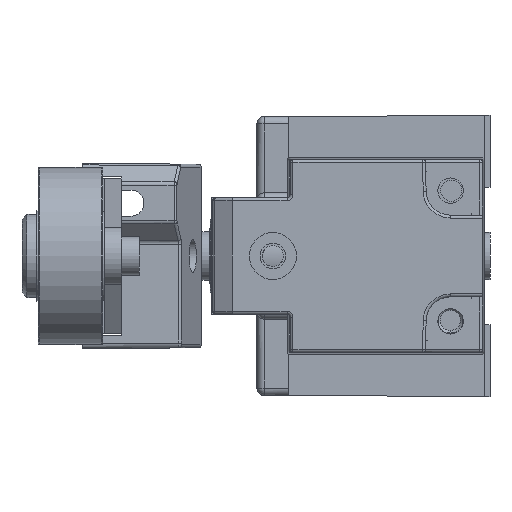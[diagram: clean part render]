
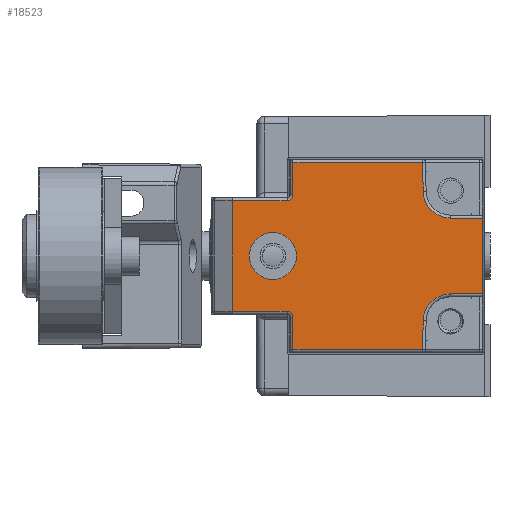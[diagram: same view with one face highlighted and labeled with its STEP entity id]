
A CAD part, left-side view. The second image highlights one B-rep face of the part: STEP entity #18523.
In plain terms, the highlighted planar face has unit normal (-1, 0, 0).
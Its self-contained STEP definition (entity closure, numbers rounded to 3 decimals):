
#18434 = VERTEX_POINT('',#18435);
#18435 = CARTESIAN_POINT('',(-67.007,-10.25,
    3.871));
#18441 = EDGE_CURVE('',#18434,#18442,#18444,.T.);
#18442 = VERTEX_POINT('',#18443);
#18443 = CARTESIAN_POINT('',(-67.007,-10.25,
    -3.871));
#18444 = LINE('',#18445,#18446);
#18445 = CARTESIAN_POINT('',(-67.007,-10.25,
    0.));
#18446 = VECTOR('',#18447,1.);
#18447 = DIRECTION('',(0.,0.,-1.));
#18523 = ADVANCED_FACE('',(#18524,#18535),#18660,.T.);
#18524 = FACE_BOUND('',#18525,.T.);
#18525 = EDGE_LOOP('',(#18526));
#18526 = ORIENTED_EDGE('',*,*,#18527,.F.);
#18527 = EDGE_CURVE('',#18528,#18528,#18530,.T.);
#18528 = VERTEX_POINT('',#18529);
#18529 = CARTESIAN_POINT('',(-67.007,11.2,
    2.4));
#18530 = CIRCLE('',#18531,2.4);
#18531 = AXIS2_PLACEMENT_3D('',#18532,#18533,#18534);
#18532 = CARTESIAN_POINT('',(-67.007,11.2,
    0.));
#18533 = DIRECTION('',(-1.,0.,0.));
#18534 = DIRECTION('',(0.,0.,1.));
#18535 = FACE_BOUND('',#18536,.T.);
#18536 = EDGE_LOOP('',(#18537,#18538,#18546,#18555,#18563,#18571,#18579,
    #18588,#18596,#18604,#18612,#18621,#18629,#18637,#18645,#18654));
#18537 = ORIENTED_EDGE('',*,*,#18441,.F.);
#18538 = ORIENTED_EDGE('',*,*,#18539,.T.);
#18539 = EDGE_CURVE('',#18434,#18540,#18542,.T.);
#18540 = VERTEX_POINT('',#18541);
#18541 = CARTESIAN_POINT('',(-67.007,-6.947,
    3.875));
#18542 = LINE('',#18543,#18544);
#18543 = CARTESIAN_POINT('',(-67.007,-0.406,
    3.884));
#18544 = VECTOR('',#18545,1.);
#18545 = DIRECTION('',(0.,1.,0.001));
#18546 = ORIENTED_EDGE('',*,*,#18547,.T.);
#18547 = EDGE_CURVE('',#18540,#18548,#18550,.T.);
#18548 = VERTEX_POINT('',#18549);
#18549 = CARTESIAN_POINT('',(-67.007,-4.151,
    6.63));
#18550 = CIRCLE('',#18551,2.8);
#18551 = AXIS2_PLACEMENT_3D('',#18552,#18553,#18554);
#18552 = CARTESIAN_POINT('',(-67.007,-6.95,
    6.675));
#18553 = DIRECTION('',(1.,0.,-0.));
#18554 = DIRECTION('',(0.,0.,1.));
#18555 = ORIENTED_EDGE('',*,*,#18556,.T.);
#18556 = EDGE_CURVE('',#18548,#18557,#18559,.T.);
#18557 = VERTEX_POINT('',#18558);
#18558 = CARTESIAN_POINT('',(-67.007,-4.104,
    9.55));
#18559 = LINE('',#18560,#18561);
#18560 = CARTESIAN_POINT('',(-67.007,-4.256,
    0.062));
#18561 = VECTOR('',#18562,1.);
#18562 = DIRECTION('',(0.,0.016,1.));
#18563 = ORIENTED_EDGE('',*,*,#18564,.T.);
#18564 = EDGE_CURVE('',#18557,#18565,#18567,.T.);
#18565 = VERTEX_POINT('',#18566);
#18566 = CARTESIAN_POINT('',(-67.007,9.15,
    9.55));
#18567 = LINE('',#18568,#18569);
#18568 = CARTESIAN_POINT('',(-67.007,-0.4,
    9.55));
#18569 = VECTOR('',#18570,1.);
#18570 = DIRECTION('',(0.,1.,0.));
#18571 = ORIENTED_EDGE('',*,*,#18572,.T.);
#18572 = EDGE_CURVE('',#18565,#18573,#18575,.T.);
#18573 = VERTEX_POINT('',#18574);
#18574 = CARTESIAN_POINT('',(-67.007,9.15,
    6.25));
#18575 = LINE('',#18576,#18577);
#18576 = CARTESIAN_POINT('',(-67.007,9.15,
    0.));
#18577 = VECTOR('',#18578,1.);
#18578 = DIRECTION('',(0.,0.,-1.));
#18579 = ORIENTED_EDGE('',*,*,#18580,.F.);
#18580 = EDGE_CURVE('',#18581,#18573,#18583,.T.);
#18581 = VERTEX_POINT('',#18582);
#18582 = CARTESIAN_POINT('',(-67.007,9.75,
    5.65));
#18583 = CIRCLE('',#18584,0.6);
#18584 = AXIS2_PLACEMENT_3D('',#18585,#18586,#18587);
#18585 = CARTESIAN_POINT('',(-67.007,9.75,
    6.25));
#18586 = DIRECTION('',(-1.,0.,0.));
#18587 = DIRECTION('',(0.,0.,1.));
#18588 = ORIENTED_EDGE('',*,*,#18589,.T.);
#18589 = EDGE_CURVE('',#18581,#18590,#18592,.T.);
#18590 = VERTEX_POINT('',#18591);
#18591 = CARTESIAN_POINT('',(-67.007,15.35,
    5.65));
#18592 = LINE('',#18593,#18594);
#18593 = CARTESIAN_POINT('',(-67.007,-0.4,
    5.65));
#18594 = VECTOR('',#18595,1.);
#18595 = DIRECTION('',(0.,1.,0.));
#18596 = ORIENTED_EDGE('',*,*,#18597,.T.);
#18597 = EDGE_CURVE('',#18590,#18598,#18600,.T.);
#18598 = VERTEX_POINT('',#18599);
#18599 = CARTESIAN_POINT('',(-67.007,15.35,
    -5.65));
#18600 = LINE('',#18601,#18602);
#18601 = CARTESIAN_POINT('',(-67.007,15.35,
    0.));
#18602 = VECTOR('',#18603,1.);
#18603 = DIRECTION('',(0.,0.,-1.));
#18604 = ORIENTED_EDGE('',*,*,#18605,.T.);
#18605 = EDGE_CURVE('',#18598,#18606,#18608,.T.);
#18606 = VERTEX_POINT('',#18607);
#18607 = CARTESIAN_POINT('',(-67.007,9.75,
    -5.65));
#18608 = LINE('',#18609,#18610);
#18609 = CARTESIAN_POINT('',(-67.007,-0.4,
    -5.65));
#18610 = VECTOR('',#18611,1.);
#18611 = DIRECTION('',(0.,-1.,0.));
#18612 = ORIENTED_EDGE('',*,*,#18613,.F.);
#18613 = EDGE_CURVE('',#18614,#18606,#18616,.T.);
#18614 = VERTEX_POINT('',#18615);
#18615 = CARTESIAN_POINT('',(-67.007,9.15,
    -6.25));
#18616 = CIRCLE('',#18617,0.6);
#18617 = AXIS2_PLACEMENT_3D('',#18618,#18619,#18620);
#18618 = CARTESIAN_POINT('',(-67.007,9.75,
    -6.25));
#18619 = DIRECTION('',(-1.,0.,0.));
#18620 = DIRECTION('',(0.,0.,1.));
#18621 = ORIENTED_EDGE('',*,*,#18622,.T.);
#18622 = EDGE_CURVE('',#18614,#18623,#18625,.T.);
#18623 = VERTEX_POINT('',#18624);
#18624 = CARTESIAN_POINT('',(-67.007,9.15,
    -9.55));
#18625 = LINE('',#18626,#18627);
#18626 = CARTESIAN_POINT('',(-67.007,9.15,
    0.));
#18627 = VECTOR('',#18628,1.);
#18628 = DIRECTION('',(0.,0.,-1.));
#18629 = ORIENTED_EDGE('',*,*,#18630,.T.);
#18630 = EDGE_CURVE('',#18623,#18631,#18633,.T.);
#18631 = VERTEX_POINT('',#18632);
#18632 = CARTESIAN_POINT('',(-67.007,-4.104,
    -9.55));
#18633 = LINE('',#18634,#18635);
#18634 = CARTESIAN_POINT('',(-67.007,-0.4,
    -9.55));
#18635 = VECTOR('',#18636,1.);
#18636 = DIRECTION('',(0.,-1.,0.));
#18637 = ORIENTED_EDGE('',*,*,#18638,.T.);
#18638 = EDGE_CURVE('',#18631,#18639,#18641,.T.);
#18639 = VERTEX_POINT('',#18640);
#18640 = CARTESIAN_POINT('',(-67.007,-4.151,
    -6.63));
#18641 = LINE('',#18642,#18643);
#18642 = CARTESIAN_POINT('',(-67.007,-4.256,
    -0.062));
#18643 = VECTOR('',#18644,1.);
#18644 = DIRECTION('',(0.,-0.016,1.));
#18645 = ORIENTED_EDGE('',*,*,#18646,.T.);
#18646 = EDGE_CURVE('',#18639,#18647,#18649,.T.);
#18647 = VERTEX_POINT('',#18648);
#18648 = CARTESIAN_POINT('',(-67.007,-6.947,
    -3.875));
#18649 = CIRCLE('',#18650,2.8);
#18650 = AXIS2_PLACEMENT_3D('',#18651,#18652,#18653);
#18651 = CARTESIAN_POINT('',(-67.007,-6.95,
    -6.675));
#18652 = DIRECTION('',(1.,0.,-0.));
#18653 = DIRECTION('',(0.,0.,1.));
#18654 = ORIENTED_EDGE('',*,*,#18655,.T.);
#18655 = EDGE_CURVE('',#18647,#18442,#18656,.T.);
#18656 = LINE('',#18657,#18658);
#18657 = CARTESIAN_POINT('',(-67.007,-0.406,
    -3.884));
#18658 = VECTOR('',#18659,1.);
#18659 = DIRECTION('',(0.,-1.,0.001));
#18660 = PLANE('',#18661);
#18661 = AXIS2_PLACEMENT_3D('',#18662,#18663,#18664);
#18662 = CARTESIAN_POINT('',(-67.007,-0.4,
    0.));
#18663 = DIRECTION('',(-1.,0.,0.));
#18664 = DIRECTION('',(0.,0.,1.));
